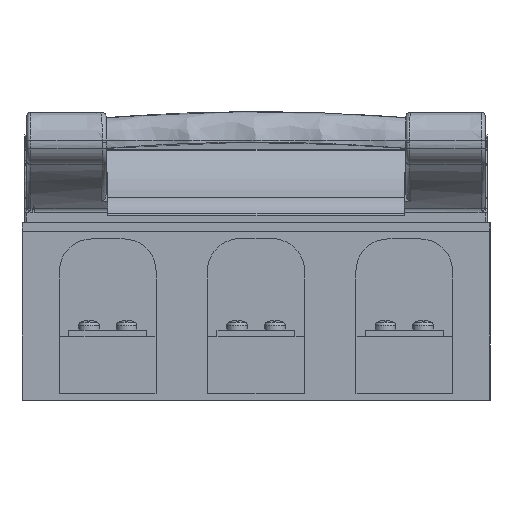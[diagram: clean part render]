
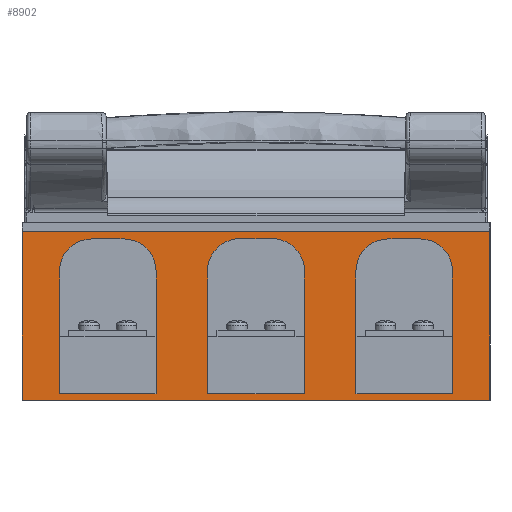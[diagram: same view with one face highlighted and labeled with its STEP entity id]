
A CAD part, left-side view. The second image highlights one B-rep face of the part: STEP entity #8902.
In plain terms, the highlighted planar face has unit normal (-1, 0, 0).
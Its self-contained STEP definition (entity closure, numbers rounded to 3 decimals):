
#8902=ADVANCED_FACE('',(#13445,#13446,#13447,#13448),#11161,.F.);
#11161=PLANE('',#48022);
#12791=CIRCLE('',#48016,12.394);
#12792=CIRCLE('',#48017,12.394);
#12793=CIRCLE('',#48018,12.289);
#12794=CIRCLE('',#48019,12.289);
#12795=CIRCLE('',#48020,12.289);
#12796=CIRCLE('',#48021,12.289);
#13445=FACE_BOUND('',#14317,.T.);
#13446=FACE_BOUND('',#14318,.T.);
#13447=FACE_BOUND('',#14319,.T.);
#13448=FACE_BOUND('',#14320,.T.);
#14317=EDGE_LOOP('',(#19113,#19114,#19115,#19116,#19117,#19118));
#14318=EDGE_LOOP('',(#19119,#19120,#19121,#19122,#19123,#19124));
#14319=EDGE_LOOP('',(#19125,#19126,#19127,#19128));
#14320=EDGE_LOOP('',(#19129,#19130,#19131,#19132,#19133,#19134));
#19113=ORIENTED_EDGE('',*,*,#35412,.T.);
#19114=ORIENTED_EDGE('',*,*,#34182,.T.);
#19115=ORIENTED_EDGE('',*,*,#35413,.T.);
#19116=ORIENTED_EDGE('',*,*,#35414,.F.);
#19117=ORIENTED_EDGE('',*,*,#35415,.F.);
#19118=ORIENTED_EDGE('',*,*,#35416,.T.);
#19119=ORIENTED_EDGE('',*,*,#35417,.F.);
#19120=ORIENTED_EDGE('',*,*,#35418,.F.);
#19121=ORIENTED_EDGE('',*,*,#35419,.T.);
#19122=ORIENTED_EDGE('',*,*,#35420,.T.);
#19123=ORIENTED_EDGE('',*,*,#35421,.T.);
#19124=ORIENTED_EDGE('',*,*,#35422,.T.);
#19125=ORIENTED_EDGE('',*,*,#33979,.T.);
#19126=ORIENTED_EDGE('',*,*,#35411,.T.);
#19127=ORIENTED_EDGE('',*,*,#35328,.T.);
#19128=ORIENTED_EDGE('',*,*,#34029,.F.);
#19129=ORIENTED_EDGE('',*,*,#34189,.F.);
#19130=ORIENTED_EDGE('',*,*,#35423,.F.);
#19131=ORIENTED_EDGE('',*,*,#35424,.T.);
#19132=ORIENTED_EDGE('',*,*,#35425,.T.);
#19133=ORIENTED_EDGE('',*,*,#34186,.T.);
#19134=ORIENTED_EDGE('',*,*,#35426,.T.);
#29704=VERTEX_POINT('',#63777);
#29705=VERTEX_POINT('',#63779);
#29748=VERTEX_POINT('',#63903);
#29902=VERTEX_POINT('',#64479);
#29904=VERTEX_POINT('',#64483);
#29906=VERTEX_POINT('',#64488);
#29908=VERTEX_POINT('',#64492);
#29910=VERTEX_POINT('',#64498);
#29911=VERTEX_POINT('',#64500);
#30560=VERTEX_POINT('',#67914);
#30570=VERTEX_POINT('',#68514);
#30571=VERTEX_POINT('',#68516);
#30572=VERTEX_POINT('',#68518);
#30573=VERTEX_POINT('',#68520);
#30574=VERTEX_POINT('',#68523);
#30575=VERTEX_POINT('',#68524);
#30576=VERTEX_POINT('',#68526);
#30577=VERTEX_POINT('',#68528);
#30578=VERTEX_POINT('',#68530);
#30579=VERTEX_POINT('',#68532);
#30580=VERTEX_POINT('',#68535);
#30581=VERTEX_POINT('',#68537);
#33979=EDGE_CURVE('',#29704,#29705,#40615,.T.);
#34029=EDGE_CURVE('',#29704,#29748,#40645,.T.);
#34182=EDGE_CURVE('',#29902,#29904,#40737,.T.);
#34186=EDGE_CURVE('',#29906,#29908,#40741,.T.);
#34189=EDGE_CURVE('',#29910,#29911,#40744,.T.);
#35328=EDGE_CURVE('',#30560,#29748,#41334,.T.);
#35411=EDGE_CURVE('',#29705,#30560,#41349,.T.);
#35412=EDGE_CURVE('',#30570,#29902,#12791,.T.);
#35413=EDGE_CURVE('',#29904,#30571,#12792,.T.);
#35414=EDGE_CURVE('',#30572,#30571,#41350,.T.);
#35415=EDGE_CURVE('',#30573,#30572,#41351,.T.);
#35416=EDGE_CURVE('',#30573,#30570,#41352,.T.);
#35417=EDGE_CURVE('',#30574,#30575,#41353,.T.);
#35418=EDGE_CURVE('',#30576,#30574,#41354,.T.);
#35419=EDGE_CURVE('',#30576,#30577,#41355,.T.);
#35420=EDGE_CURVE('',#30577,#30578,#12793,.T.);
#35421=EDGE_CURVE('',#30578,#30579,#41356,.T.);
#35422=EDGE_CURVE('',#30579,#30575,#12794,.T.);
#35423=EDGE_CURVE('',#30580,#29910,#41357,.T.);
#35424=EDGE_CURVE('',#30580,#30581,#41358,.T.);
#35425=EDGE_CURVE('',#30581,#29906,#12795,.T.);
#35426=EDGE_CURVE('',#29908,#29911,#12796,.T.);
#40615=LINE('',#63780,#43763);
#40645=LINE('',#63912,#43793);
#40737=LINE('',#64484,#43885);
#40741=LINE('',#64493,#43889);
#40744=LINE('',#64499,#43892);
#41334=LINE('',#67917,#44482);
#41349=LINE('',#68511,#44497);
#41350=LINE('',#68517,#44498);
#41351=LINE('',#68519,#44499);
#41352=LINE('',#68521,#44500);
#41353=LINE('',#68522,#44501);
#41354=LINE('',#68525,#44502);
#41355=LINE('',#68527,#44503);
#41356=LINE('',#68531,#44504);
#41357=LINE('',#68534,#44505);
#41358=LINE('',#68536,#44506);
#43763=VECTOR('',#51500,1.);
#43793=VECTOR('',#51570,1.);
#43885=VECTOR('',#51742,1.);
#43889=VECTOR('',#51748,1.);
#43892=VECTOR('',#51753,1.);
#44482=VECTOR('',#54005,1.);
#44497=VECTOR('',#54358,1.);
#44498=VECTOR('',#54365,1.);
#44499=VECTOR('',#54366,1.);
#44500=VECTOR('',#54367,1.);
#44501=VECTOR('',#54368,1.);
#44502=VECTOR('',#54369,1.);
#44503=VECTOR('',#54370,1.);
#44504=VECTOR('',#54373,1.);
#44505=VECTOR('',#54376,1.);
#44506=VECTOR('',#54377,1.);
#48016=AXIS2_PLACEMENT_3D('',#68513,#54361,#54362);
#48017=AXIS2_PLACEMENT_3D('',#68515,#54363,#54364);
#48018=AXIS2_PLACEMENT_3D('',#68529,#54371,#54372);
#48019=AXIS2_PLACEMENT_3D('',#68533,#54374,#54375);
#48020=AXIS2_PLACEMENT_3D('',#68538,#54378,#54379);
#48021=AXIS2_PLACEMENT_3D('',#68539,#54380,#54381);
#48022=AXIS2_PLACEMENT_3D('',#68540,#54382,#54383);
#51500=DIRECTION('',(0.,-1.,0.));
#51570=DIRECTION('',(0.,0.,1.));
#51742=DIRECTION('',(0.,-1.,0.));
#51748=DIRECTION('',(0.,-1.,0.));
#51753=DIRECTION('',(0.,0.,1.));
#54005=DIRECTION('',(0.,1.,0.));
#54358=DIRECTION('',(0.,0.,1.));
#54361=DIRECTION('',(1.,0.,0.));
#54362=DIRECTION('',(0.,0.,-1.));
#54363=DIRECTION('',(1.,0.,0.));
#54364=DIRECTION('',(0.,0.,-1.));
#54365=DIRECTION('',(0.,0.,1.));
#54366=DIRECTION('',(0.,-1.,0.));
#54367=DIRECTION('',(0.,0.,1.));
#54368=DIRECTION('',(0.,0.,1.));
#54369=DIRECTION('',(0.,-1.,0.));
#54370=DIRECTION('',(0.,0.,1.));
#54371=DIRECTION('',(1.,0.,0.));
#54372=DIRECTION('',(0.,0.,-1.));
#54373=DIRECTION('',(0.,-1.,0.));
#54374=DIRECTION('',(1.,0.,0.));
#54375=DIRECTION('',(0.,0.,-1.));
#54376=DIRECTION('',(0.,-1.,0.));
#54377=DIRECTION('',(0.,0.,1.));
#54378=DIRECTION('',(1.,0.,0.));
#54379=DIRECTION('',(0.,0.,-1.));
#54380=DIRECTION('',(1.,0.,0.));
#54381=DIRECTION('',(0.,0.,-1.));
#54382=DIRECTION('',(1.,0.,0.));
#54383=DIRECTION('',(0.,1.,0.));
#63777=CARTESIAN_POINT('',(-103.372,99.784,112.088));
#63779=CARTESIAN_POINT('',(-103.372,-80.216,112.088));
#63780=CARTESIAN_POINT('',(-103.372,95.284,112.088));
#63903=CARTESIAN_POINT('',(-103.372,99.784,177.006));
#63912=CARTESIAN_POINT('',(-103.372,99.784,117.088));
#64479=CARTESIAN_POINT('',(-103.372,17.643,174.128));
#64483=CARTESIAN_POINT('',(-103.372,1.926,174.128));
#64484=CARTESIAN_POINT('',(-103.372,9.784,174.128));
#64488=CARTESIAN_POINT('',(-103.372,-40.966,174.128));
#64492=CARTESIAN_POINT('',(-103.372,-53.466,174.128));
#64493=CARTESIAN_POINT('',(-103.372,9.784,174.128));
#64498=CARTESIAN_POINT('',(-103.372,-65.755,114.588));
#64499=CARTESIAN_POINT('',(-103.372,-65.755,203.088));
#64500=CARTESIAN_POINT('',(-103.372,-65.755,161.838));
#67914=CARTESIAN_POINT('',(-103.372,-80.216,177.006));
#67917=CARTESIAN_POINT('',(-103.372,95.284,177.006));
#68511=CARTESIAN_POINT('',(-103.372,-80.216,117.088));
#68513=CARTESIAN_POINT('',(-103.372,16.034,161.838));
#68514=CARTESIAN_POINT('',(-103.372,28.429,161.838));
#68515=CARTESIAN_POINT('',(-103.372,3.534,161.838));
#68516=CARTESIAN_POINT('',(-103.372,-8.86,161.838));
#68517=CARTESIAN_POINT('',(-103.372,-8.86,203.088));
#68518=CARTESIAN_POINT('',(-103.372,-8.86,114.588));
#68519=CARTESIAN_POINT('',(-103.372,95.284,114.588));
#68520=CARTESIAN_POINT('',(-103.372,28.429,114.588));
#68521=CARTESIAN_POINT('',(-103.372,28.429,144.547));
#68522=CARTESIAN_POINT('',(-103.372,48.245,203.088));
#68523=CARTESIAN_POINT('',(-103.372,48.245,114.588));
#68524=CARTESIAN_POINT('',(-103.372,48.245,161.838));
#68525=CARTESIAN_POINT('',(-103.372,95.284,114.588));
#68526=CARTESIAN_POINT('',(-103.372,85.324,114.588));
#68527=CARTESIAN_POINT('',(-103.372,85.324,144.547));
#68528=CARTESIAN_POINT('',(-103.372,85.324,161.838));
#68529=CARTESIAN_POINT('',(-103.372,73.034,161.838));
#68530=CARTESIAN_POINT('',(-103.372,73.034,174.128));
#68531=CARTESIAN_POINT('',(-103.372,9.784,174.128));
#68532=CARTESIAN_POINT('',(-103.372,60.534,174.128));
#68533=CARTESIAN_POINT('',(-103.372,60.534,161.838));
#68534=CARTESIAN_POINT('',(-103.372,95.284,114.588));
#68535=CARTESIAN_POINT('',(-103.372,-28.676,114.588));
#68536=CARTESIAN_POINT('',(-103.372,-28.676,144.547));
#68537=CARTESIAN_POINT('',(-103.372,-28.676,161.838));
#68538=CARTESIAN_POINT('',(-103.372,-40.966,161.838));
#68539=CARTESIAN_POINT('',(-103.372,-53.466,161.838));
#68540=CARTESIAN_POINT('',(-103.372,95.284,203.088));
